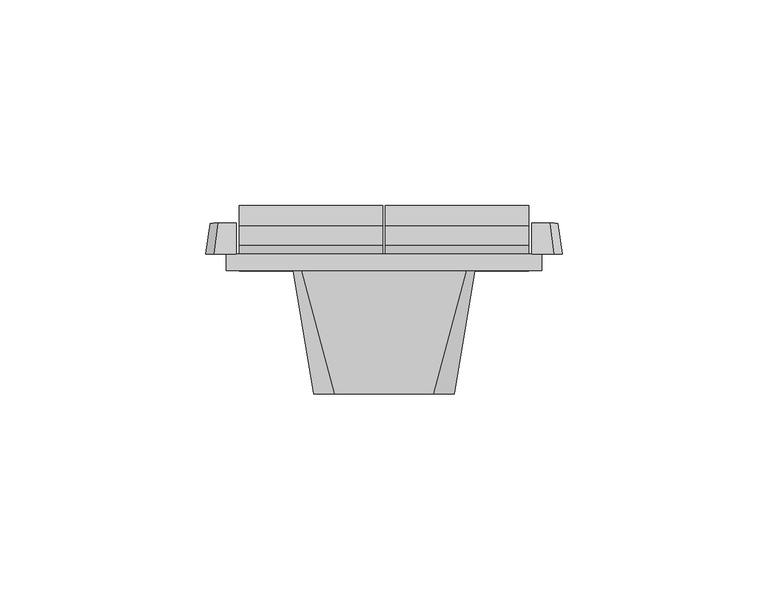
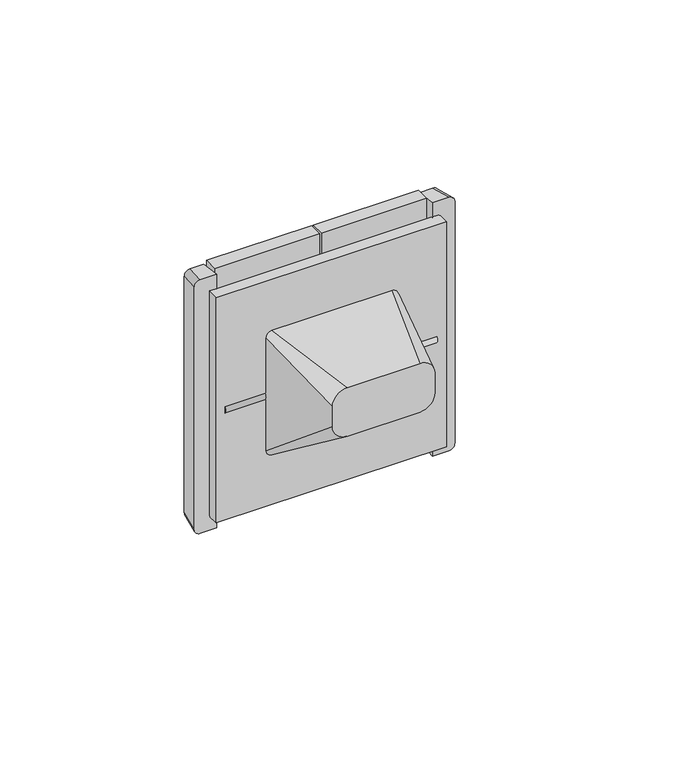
"""IFC4 building model written with IfcOpenShell, lengths in millimetres: proxy geometry, IEK_Forte&Piano_Выключатель : В2_FP105."""

import ifcopenshell
import ifcopenshell.guid

model = None  # the IFC model being written
_history = None  # IfcOwnerHistory: only IFC2X3 demands one
_inside = {}  # id of a spatial element -> (the spatial element, [elements in it])
_under = {}  # id of a project, library or spatial element -> (it, [spatial elements below it])
_declared = {}  # id of a project -> (the project, [libraries it declares])
_typed = {}  # id of a type object -> (the type object, [elements of that type])
_made_of = {}  # id of a material, layer set ... -> (it, [elements and type objects made of it])


def new_model(schema):
    """Start an empty IFC model of exactly this schema.

    Asked for "IFC4X3", IfcOpenShell would pick the latest addendum, in which some entities
    have other attributes; the version numbers below select the first issue.
    IFC2X3 requires an IfcOwnerHistory on every rooted entity: one is made here for all.
    """
    global model, _history
    if schema == "IFC4X3":
        model = ifcopenshell.file(schema_version=(4, 3, 0, 0))
    else:
        model = ifcopenshell.file(schema=schema)
    _inside.clear()
    _under.clear()
    _declared.clear()
    _typed.clear()
    _made_of.clear()
    _history = None
    if model.schema == "IFC2X3":
        org = make("IfcOrganization", Name="unknown")
        user = make(
            "IfcPersonAndOrganization",
            ThePerson=make("IfcPerson", FamilyName="unknown"),
            TheOrganization=org,
        )
        app = make(
            "IfcApplication",
            ApplicationDeveloper=org,
            Version="unknown",
            ApplicationFullName="unknown",
            ApplicationIdentifier="unknown",
        )
        _history = make(
            "IfcOwnerHistory",
            OwningUser=user,
            OwningApplication=app,
            ChangeAction="ADDED",
            CreationDate=0,
        )
    return model


def make(cls, **values):
    """One entity of the class cls with the attributes given. An attribute that is None is left unset."""
    return model.create_entity(
        cls, **{name: value for name, value in values.items() if value is not None}
    )


def rooted(cls, **values):
    """An entity with a GlobalId (a new one), such as an element, a storey or a relation."""
    return make(cls, GlobalId=ifcopenshell.guid.new(), OwnerHistory=_history, **values)


def si_unit(unit_type, name, prefix=None):
    """IfcSIUnit, for example si_unit("LENGTHUNIT", "METRE", prefix="MILLI")."""
    return make("IfcSIUnit", UnitType=unit_type, Prefix=prefix, Name=name)


def assignment(units):
    """IfcUnitAssignment: the units of a project."""
    return None if units is None else make("IfcUnitAssignment", Units=units)


def point(xyz):
    """IfcCartesianPoint."""
    return None if xyz is None else make("IfcCartesianPoint", Coordinates=xyz)


def direction(xyz):
    """IfcDirection."""
    return None if xyz is None else make("IfcDirection", DirectionRatios=xyz)


def frame(location, z_axis=None, x_axis=None):
    """IfcAxis2Placement3D, a coordinate frame: its origin and axes. An axis left out is left unset."""
    return make(
        "IfcAxis2Placement3D",
        Location=point(location),
        Axis=direction(z_axis),
        RefDirection=direction(x_axis),
    )


def origin():
    """The frame at (0, 0, 0) with its axes left unset."""
    return frame((0.0, 0.0, 0.0))


def place(relative_to, where):
    """IfcLocalPlacement: puts the frame where relative to a parent placement (None: the world)."""
    return make(
        "IfcLocalPlacement", PlacementRelTo=relative_to, RelativePlacement=where
    )


def context(
    kind, dimensions, precision=None, world=None, true_north=None, identifier=None
):
    """IfcGeometricRepresentationContext, for example the 3D "Model" context."""
    return make(
        "IfcGeometricRepresentationContext",
        ContextIdentifier=identifier,
        ContextType=kind,
        CoordinateSpaceDimension=dimensions,
        Precision=precision,
        WorldCoordinateSystem=world,
        TrueNorth=true_north,
    )


def project(units=None, contexts=None):
    """IfcProject with its units and contexts."""
    return rooted(
        "IfcProject",
        Name="project",
        RepresentationContexts=contexts,
        UnitsInContext=assignment(units),
    )


def spatial(cls, under=None, at=None, **own):
    """A site, building, storey or space (cls), placed at a placement, below another one or the project."""
    s = rooted(cls, ObjectPlacement=at, **own)
    if under is not None:
        _under.setdefault(under.id(), (under, []))[1].append(s)
    return s


def polyline(points):
    """IfcPolyline through the points."""
    return make("IfcPolyline", Points=[point(p) for p in points])


def circle_curve(where, radius):
    """IfcCircle in the frame where."""
    return make("IfcCircle", Position=where, Radius=radius)


def ellipse_curve(where, semi_axis1, semi_axis2):
    """IfcEllipse in the frame where."""
    return make(
        "IfcEllipse", Position=where, SemiAxis1=semi_axis1, SemiAxis2=semi_axis2
    )


def trimmed(basis, trim1, trim2, sense, master):
    """IfcTrimmedCurve: the piece of a basis curve between two trims."""
    return make(
        "IfcTrimmedCurve",
        BasisCurve=basis,
        Trim1=trim1,
        Trim2=trim2,
        SenseAgreement=sense,
        MasterRepresentation=master,
    )


def shape(context_of_items, identifier, shape_type, items):
    """IfcShapeRepresentation: the items that make up one representation, for example the "Body"."""
    return make(
        "IfcShapeRepresentation",
        ContextOfItems=context_of_items,
        RepresentationIdentifier=identifier,
        RepresentationType=shape_type,
        Items=items,
    )


def source(mapping_origin, context_of_items, identifier, shape_type, items):
    """IfcRepresentationMap: a shape defined once, which mapped items show again and again."""
    return make(
        "IfcRepresentationMap",
        MappingOrigin=mapping_origin,
        MappedRepresentation=shape(context_of_items, identifier, shape_type, items),
    )


def transform(
    local_origin,
    x_axis=None,
    y_axis=None,
    z_axis=None,
    scale=None,
    scale2=None,
    scale3=None,
    uniform=True,
):
    """IfcCartesianTransformationOperator3D, or its non-uniform kind. x_axis, y_axis, z_axis: its Axis1, 2, 3."""
    if uniform:
        return make(
            "IfcCartesianTransformationOperator3D",
            Axis1=direction(x_axis),
            Axis2=direction(y_axis),
            LocalOrigin=point(local_origin),
            Scale=scale,
            Axis3=direction(z_axis),
        )
    return make(
        "IfcCartesianTransformationOperator3DnonUniform",
        Axis1=direction(x_axis),
        Axis2=direction(y_axis),
        LocalOrigin=point(local_origin),
        Scale=scale,
        Axis3=direction(z_axis),
        Scale2=scale2,
        Scale3=scale3,
    )


def mapped(mapping_source, mapping_target):
    """IfcMappedItem: shows the shape of a source again, moved by a transform."""
    return make(
        "IfcMappedItem", MappingSource=mapping_source, MappingTarget=mapping_target
    )


def made_of(thing, what):
    """Note that an element or type object is made of a material, layer set ...; save() writes the relation."""
    if what is not None:
        _made_of.setdefault(what.id(), (what, []))[1].append(thing)
    return thing


def element(
    cls,
    number,
    at=None,
    inside=None,
    cuts=None,
    type_object=None,
    material=None,
    context=None,
    identifier="Body",
    shape_type=None,
    held_by="IfcProductDefinitionShape",
    body=None,
    shapes=None,
    **own,
):
    """One element of the class cls, such as IfcWall. Its Tag is "e" and its number.

    at: its placement. inside: the storey or other place that contains it. cuts: it is an
    opening in that element (IfcRelVoidsElement). A single representation is given by context,
    identifier, shape_type and body (its items); several are given by shapes. held_by: the class
    of the entity that holds the representations. save() writes the other relations.
    """
    e = rooted(cls, Tag="e%d" % number, ObjectPlacement=at, **own)
    if body is not None:
        shapes = [shape(context, identifier, shape_type, body)]
    if shapes is not None:
        e.Representation = make(held_by, Representations=shapes)
    if inside is not None:
        _inside.setdefault(inside.id(), (inside, []))[1].append(e)
    if cuts is not None:
        rooted(
            "IfcRelVoidsElement", RelatingBuildingElement=cuts, RelatedOpeningElement=e
        )
    if type_object is not None:
        _typed.setdefault(type_object.id(), (type_object, []))[1].append(e)
    return made_of(e, material)


def aggregate(whole, parts):
    """IfcRelAggregates: a whole, such as a stair, and the parts it consists of."""
    return rooted("IfcRelAggregates", RelatingObject=whole, RelatedObjects=parts)


def save(model, path):
    """Write the relations noted so far, then the file.

    IfcRelAggregates (storeys below a building ...), IfcRelContainedInSpatialStructure (elements
    in a storey), IfcRelDefinesByType, IfcRelAssociatesMaterial and IfcRelDeclares: one each for
    every whole, place, type object, material and project.
    """
    for whole, parts in _under.values():
        aggregate(whole, parts)
    for where, things in _inside.values():
        rooted(
            "IfcRelContainedInSpatialStructure",
            RelatedElements=things,
            RelatingStructure=where,
        )
    for kind, things in _typed.values():
        rooted("IfcRelDefinesByType", RelatedObjects=things, RelatingType=kind)
    for what, things in _made_of.values():
        rooted("IfcRelAssociatesMaterial", RelatedObjects=things, RelatingMaterial=what)
    for by, libraries in _declared.values():
        rooted("IfcRelDeclares", RelatingContext=by, RelatedDefinitions=libraries)
    model.write(path)


def plane_surface(at):
    """IfcPlane: the flat surface through the origin of the frame at, square to its z axis."""
    return make("IfcPlane", Position=at)


def cylinder_surface(at, radius):
    """IfcCylindricalSurface: all points at the distance radius from the z axis of the frame at."""
    return make("IfcCylindricalSurface", Position=at, Radius=radius)


def revolved_surface(curve, axis_point, axis_direction):
    """IfcSurfaceOfRevolution: the curve turned about the line through axis_point along axis_direction."""
    return make(
        "IfcSurfaceOfRevolution",
        SweptCurve=make("IfcArbitraryOpenProfileDef", ProfileType="CURVE", Curve=curve),
        AxisPosition=make("IfcAxis1Placement", Location=point(axis_point), Axis=direction(axis_direction)),
    )


def extruded_surface(curve, direction_of_extrusion, depth):
    """IfcSurfaceOfLinearExtrusion: the curve pushed along a direction by depth."""
    return make(
        "IfcSurfaceOfLinearExtrusion",
        SweptCurve=make("IfcArbitraryOpenProfileDef", ProfileType="CURVE", Curve=curve),
        ExtrudedDirection=direction(direction_of_extrusion),
        Depth=depth,
    )


def spline_surface(u_degree, v_degree, points, u_multiplicities, v_multiplicities, u_knots, v_knots, weights=None):
    """IfcBSplineSurfaceWithKnots; with weights, IfcRationalBSplineSurfaceWithKnots. points: one row for each step in u."""
    own = dict(
        UDegree=u_degree,
        VDegree=v_degree,
        ControlPointsList=[[point(p) for p in row] for row in points],
        SurfaceForm="UNSPECIFIED",
        UClosed=False,
        VClosed=False,
        SelfIntersect=False,
        UMultiplicities=u_multiplicities,
        VMultiplicities=v_multiplicities,
        UKnots=u_knots,
        VKnots=v_knots,
        KnotSpec="UNSPECIFIED",
    )
    if weights is None:
        return make("IfcBSplineSurfaceWithKnots", **own)
    return make("IfcRationalBSplineSurfaceWithKnots", WeightsData=weights, **own)


def advanced_brep(points, edges, surfaces, faces):
    """IfcAdvancedBrep: a solid bounded by faces that lie on surfaces and meet in shared edges.

    An edge is (start, end): straight between two places in points (the first is 0);
    or (start, end, curve); or (start, end, curve, False) where it runs against its curve.
    A face is (place in surfaces, loops), or (place, loops, False) where it looks against
    its surface's normal. A loop lists edges by number (the first is 1), with a minus sign
    where the edge is run from its end to its start. The first loop is the outer one.
    """
    corners = [point(p) for p in points]
    vertices = [make("IfcVertexPoint", VertexGeometry=c) for c in corners]
    made = []
    for start, end, *more in edges:
        made.append(
            make(
                "IfcEdgeCurve",
                EdgeStart=vertices[start],
                EdgeEnd=vertices[end],
                EdgeGeometry=more[0] if more else make("IfcPolyline", Points=[corners[start], corners[end]]),
                SameSense=more[1] if len(more) > 1 else True,
            )
        )
    hull = []
    for where, loops, *sense in faces:
        bounds = []
        for j, loop in enumerate(loops):
            ring = [make("IfcOrientedEdge", EdgeElement=made[abs(k) - 1], Orientation=k > 0) for k in loop]
            bounds.append(
                make(
                    "IfcFaceOuterBound" if j == 0 else "IfcFaceBound",
                    Bound=make("IfcEdgeLoop", EdgeList=ring),
                    Orientation=True,
                )
            )
        hull.append(make("IfcAdvancedFace", Bounds=bounds, FaceSurface=surfaces[where], SameSense=sense[0] if sense else True))
    return make("IfcAdvancedBrep", Outer=make("IfcClosedShell", CfsFaces=hull))


def electrical_fixtures_668d4cdb(model_context):
    return source(origin(), model_context, "Body", "AdvancedBrep", [
        advanced_brep(
        [(-35.2, 6.2549179, 2.9812023), (-35.2, 6.2549179, 44.8795088), (-35.2, 10.987727, 44.8795088), (-35.2, 15.7741028, -43.2498951), (-35.2, 10.7814607, -43.5210494), (-35.2, 6.5964168, -3.3066655), (-35.2, 1.5972872, -2.8692983), (-35.2, 0.9979294, 0.5298284), (-0.3, 6.2549179, 2.9812023), (-0.3, 0.9979294, 0.5298284), (-0.3, 1.5972872, -2.8692983), (-0.3, 6.5964168, -3.3066655), (-0.3, 7.4154801, -11.1771032), (-0.3, 11.5120925, -11.1771032), (-0.3, 11.5120925, -15.1771032), (-0.3, 7.8317535, -15.1771032), (-0.3, 10.7814607, -43.5210494), (-0.3, 15.7741028, -43.2498951), (-0.3, 10.987727, 44.8795088), (-0.3, 6.2549179, 44.8795088), (-6.0000251, 7.8317535, -15.1771032), (-6.0000251, 7.4154801, -11.1771032), (-6.0000251, 11.5120925, -11.1771032), (-6.0000251, 11.5120925, -15.1771032)],
        [
            (0, 1),
            (1, 2),
            (2, 3),
            (3, 4),
            (4, 5),
            (5, 6),
            (6, 7, circle_curve(frame((-35.2, 1.7530049, -1.0894363), z_axis=(-1.0, 0.0, 0.0), x_axis=(0.0, 1.0, 0.0)), 1.7866608)),
            (7, 0),
            (8, 9),
            (9, 10, circle_curve(frame((-0.3, 1.7530049, -1.0894363), z_axis=(1.0, 0.0, 0.0), x_axis=(0.0, 1.0, 0.0)), 1.7866608)),
            (10, 11),
            (11, 12),
            (12, 13),
            (13, 14),
            (14, 15),
            (15, 16),
            (16, 17),
            (17, 18),
            (18, 19),
            (19, 8),
            (0, 8),
            (19, 1),
            (7, 9),
            (6, 10),
            (5, 11),
            (4, 16),
            (15, 20),
            (20, 21, ellipse_curve(frame((-6.0000251, 7.6236168, -13.1771032), z_axis=(0.0, 0.9946284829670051, 0.10350932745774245), x_axis=(0.0, -0.10350932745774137, 0.9946284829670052)), 2.0108011, 2.0)),
            (21, 12),
            (3, 17),
            (2, 18),
            (22, 23, circle_curve(frame((-6.0000251, 11.5120925, -13.1771032), z_axis=(0.0, -1.0, 0.0), x_axis=(1.0, 0.0, 0.0)), 2.0)),
            (23, 14),
            (13, 22),
            (21, 22),
            (20, 23),
        ],
        [
            plane_surface(frame((-35.2, 6.2549179, 21.8770556), z_axis=(-1.0, 0.0, 0.0), x_axis=(0.0, 0.0, 1.0))),
            plane_surface(frame((-0.3, 6.2549179, 21.8770556), z_axis=(1.0, 0.0, 0.0), x_axis=(0.0, 0.0, -1.0))),
            plane_surface(frame((-35.2, 6.2549179, 2.9812023), z_axis=(0.0, -1.0, 0.0), x_axis=(1.0, 0.0, 0.0))),
            plane_surface(frame((-35.2, 0.9979294, 0.5298284), z_axis=(0.0, -0.4226182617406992, 0.90630778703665), x_axis=(1.0, 0.0, 0.0))),
            cylinder_surface(frame((-0.3, 1.7530049, -1.0894363), z_axis=(-1.0, 0.0, 0.0), x_axis=(0.0, 1.0, 0.0)), 1.7866608),
            plane_surface(frame((-35.2, 6.5964168, -3.3066655), z_axis=(0.0, -0.08715574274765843, -0.9961946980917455), x_axis=(1.0, 0.0, 0.0))),
            plane_surface(frame((-35.2, 10.7814607, -43.5210494), z_axis=(0.0, -0.9946284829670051, -0.10350932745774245), x_axis=(1.0, 0.0, 0.0))),
            plane_surface(frame((-35.2, 15.7741028, -43.2498951), z_axis=(0.0, 0.05423084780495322, -0.9985284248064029), x_axis=(1.0, 0.0, 0.0))),
            plane_surface(frame((-35.2, 10.987727, 44.8795088), z_axis=(0.0, 0.9985284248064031, 0.05423084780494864), x_axis=(1.0, 0.0, 0.0))),
            plane_surface(frame((-35.2, 6.2549179, 44.8795088), z_axis=(0.0, 0.0, 1.0), x_axis=(1.0, 0.0, 0.0))),
            plane_surface(frame((-6.0000251, 11.5120925, -11.1771032), z_axis=(0.0, -1.0, 0.0), x_axis=(1.0, 0.0, 0.0))),
            plane_surface(frame((6.0000251, 3.5120925, -11.1771032), z_axis=(0.0, 0.0, -1.0), x_axis=(0.0, 1.0, 0.0))),
            revolved_surface(polyline([(-4.0000251, 7.4154801, -13.1771032), (-4.0000251, 11.5120925, -13.1771032)]), (-6.0000251, 11.5120925, -13.1771032), (0.0, -1.0, 0.0)),
            plane_surface(frame((-6.0000251, 3.5120925, -15.1771032), z_axis=(0.0, 0.0, 1.0), x_axis=(0.0, 1.0, 0.0))),
        ],
        [
            (0, [[1, 2, 3, 4, 5, 6, 7, 8]]),
            (1, [[9, 10, 11, 12, 13, 14, 15, 16, 17, 18, 19, 20]]),
            (2, [[-1, 21, -20, 22]]),
            (3, [[-8, 23, -9, -21]]),
            (4, [[-7, 24, -10, -23]]),
            (5, [[-6, 25, -11, -24]]),
            (6, [[-5, 26, -16, 27, 28, 29, -12, -25]]),
            (7, [[-4, 30, -17, -26]]),
            (8, [[-3, 31, -18, -30]]),
            (9, [[-2, -22, -19, -31]]),
            (10, [[32, 33, -14, 34]]),
            (11, [[-34, -13, -29, 35]]),
            (12, [[-32, -35, -28, 36]]),
            (13, [[-33, -36, -27, -15]]),
        ],
    ),
        advanced_brep(
        [(35.2, 6.2549179, 2.9812023), (35.2, 0.9979294, 0.5298284), (35.2, 1.5972872, -2.8692983), (35.2, 6.5964168, -3.3066655), (35.2, 10.7814607, -43.5210494), (35.2, 15.7741028, -43.2498951), (35.2, 10.987727, 44.8795088), (35.2, 6.2549179, 44.8795088), (0.3, 6.2549179, 2.9812023), (0.3, 6.2549179, 44.8795088), (0.3, 10.987727, 44.8795088), (0.3, 15.7741028, -43.2498951), (0.3, 10.7814607, -43.5210494), (0.3, 7.8317535, -15.1771032), (0.3, 11.5120925, -15.1771032), (0.3, 11.5120925, -11.1771032), (0.3, 7.4154801, -11.1771032), (0.3, 6.5964168, -3.3066655), (0.3, 1.5972872, -2.8692983), (0.3, 0.9979294, 0.5298284), (6.0000251, 7.4154801, -11.1771032), (6.0000251, 7.8317535, -15.1771032), (6.0000251, 11.5120925, -15.1771032), (6.0000251, 11.5120925, -11.1771032)],
        [
            (0, 1),
            (1, 2, circle_curve(frame((35.2, 1.7530049, -1.0894363), z_axis=(1.0, 0.0, 0.0), x_axis=(0.0, 1.0, 0.0)), 1.7866608)),
            (2, 3),
            (3, 4),
            (4, 5),
            (5, 6),
            (6, 7),
            (7, 0),
            (8, 9),
            (9, 10),
            (10, 11),
            (11, 12),
            (12, 13),
            (13, 14),
            (14, 15),
            (15, 16),
            (16, 17),
            (17, 18),
            (18, 19, circle_curve(frame((0.3, 1.7530049, -1.0894363), z_axis=(-1.0, 0.0, 0.0), x_axis=(0.0, 1.0, 0.0)), 1.7866608)),
            (19, 8),
            (7, 9),
            (8, 0),
            (19, 1),
            (18, 2),
            (17, 3),
            (16, 20),
            (20, 21, ellipse_curve(frame((6.0000251, 7.6236168, -13.1771032), z_axis=(0.0, 0.9946284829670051, 0.10350932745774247), x_axis=(0.0, -0.10350932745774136, 0.9946284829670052)), 2.0108011, 2.0)),
            (21, 13),
            (12, 4),
            (11, 5),
            (10, 6),
            (22, 23, circle_curve(frame((6.0000251, 11.5120925, -13.1771032), z_axis=(0.0, -1.0, 0.0), x_axis=(1.0, 0.0, 0.0)), 2.0)),
            (23, 15),
            (14, 22),
            (23, 20),
            (21, 22),
        ],
        [
            plane_surface(frame((35.2, -0.6655077, -0.2458451), z_axis=(1.0, 0.0, 0.0), x_axis=(0.0, -0.9063077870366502, -0.42261826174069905))),
            plane_surface(frame((0.3, -0.6655077, -0.2458451), z_axis=(-1.0, 0.0, 0.0), x_axis=(0.0, 0.9063077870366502, 0.42261826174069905))),
            plane_surface(frame((35.2, 6.2549179, 44.8795088), z_axis=(0.0, -1.0, 0.0), x_axis=(-1.0, 0.0, 0.0))),
            plane_surface(frame((35.2, 6.2549179, 2.9812023), z_axis=(0.0, -0.42261826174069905, 0.9063077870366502), x_axis=(-1.0, 0.0, 0.0))),
            cylinder_surface(frame((0.3, 1.7530049, -1.0894363), z_axis=(1.0, 0.0, 0.0), x_axis=(0.0, 1.0, 0.0)), 1.7866608),
            plane_surface(frame((35.2, 1.5972872, -2.8692983), z_axis=(0.0, -0.08715574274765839, -0.9961946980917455), x_axis=(-1.0, 0.0, 0.0))),
            plane_surface(frame((35.2, 6.5964168, -3.3066655), z_axis=(0.0, -0.9946284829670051, -0.10350932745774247), x_axis=(-1.0, 0.0, 0.0))),
            plane_surface(frame((35.2, 10.7814607, -43.5210494), z_axis=(0.0, 0.05423084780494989, -0.998528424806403), x_axis=(-1.0, 0.0, 0.0))),
            plane_surface(frame((35.2, 15.7741028, -43.2498951), z_axis=(0.0, 0.9985284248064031, 0.05423084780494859), x_axis=(-1.0, 0.0, 0.0))),
            plane_surface(frame((35.2, 10.987727, 44.8795088), z_axis=(0.0, 0.0, 1.0), x_axis=(-1.0, 0.0, 0.0))),
            plane_surface(frame((-6.0000251, 11.5120925, -11.1771032), z_axis=(0.0, -1.0, 0.0), x_axis=(1.0, 0.0, 0.0))),
            plane_surface(frame((6.0000251, 3.5120925, -11.1771032), z_axis=(0.0, 0.0, -1.0), x_axis=(0.0, 1.0, 0.0))),
            plane_surface(frame((-6.0000251, 3.5120925, -15.1771032), z_axis=(0.0, 0.0, 1.0), x_axis=(0.0, 1.0, 0.0))),
            revolved_surface(polyline([(8.0000251, 7.4154801, -13.1771032), (8.0000251, 11.5120925, -13.1771032)]), (6.0000251, 11.5120925, -13.1771032), (0.0, -1.0, 0.0)),
        ],
        [
            (0, [[1, 2, 3, 4, 5, 6, 7, 8]]),
            (1, [[9, 10, 11, 12, 13, 14, 15, 16, 17, 18, 19, 20]]),
            (2, [[-8, 21, -9, 22]]),
            (3, [[-1, -22, -20, 23]]),
            (4, [[-2, -23, -19, 24]]),
            (5, [[-3, -24, -18, 25]]),
            (6, [[-4, -25, -17, 26, 27, 28, -13, 29]]),
            (7, [[-5, -29, -12, 30]]),
            (8, [[-6, -30, -11, 31]]),
            (9, [[-7, -31, -10, -21]]),
            (10, [[32, 33, -15, 34]]),
            (11, [[-33, 35, -26, -16]]),
            (12, [[-34, -14, -28, 36]]),
            (13, [[-32, -36, -27, -35]]),
        ],
    ),
        advanced_brep(
        [(35.8576533, 11.5, 43.5), (35.8576533, 11.5, -43.5), (35.8576533, 4.0, -44.5), (35.8576533, 4.0, -39.5), (35.8576533, 4.0, 39.5), (35.8576533, 4.0, 44.5), (-35.8576533, 11.5, -43.5), (-35.8576533, 11.5, 43.5), (-35.8576533, 4.0, 44.5), (-35.8576533, 4.0, 39.5), (-35.8576533, 4.0, -39.5), (-35.8576533, 4.0, -44.5), (40.25, 11.5, 43.5), (42.25, 11.5, 41.5), (42.25, 11.5, -41.5), (40.25, 11.5, -43.5), (-40.25, 11.5, -43.5), (-42.25, 11.5, -41.5), (-42.25, 11.5, 41.5), (-40.25, 11.5, 43.5), (-41.25, 4.0, 44.5), (-43.25, 4.0, 42.5), (-43.25, 4.0, -42.5), (-41.25, 4.0, -44.5), (-38.25, 4.0, -39.5), (-38.25, 4.0, 39.5), (41.25, 4.0, -44.5), (43.25, 4.0, -42.5), (43.25, 4.0, 42.5), (41.25, 4.0, 44.5), (38.25, 4.0, 39.5), (38.25, 4.0, -39.5), (-38.25, 0.0, 39.5), (-38.25, 0.0, -39.5), (38.25, 0.0, -39.5), (38.25, 0.0, 39.5)],
        [
            (0, 1),
            (1, 2),
            (2, 3),
            (3, 4),
            (4, 5),
            (5, 0),
            (6, 7),
            (7, 8),
            (8, 9),
            (9, 10),
            (10, 11),
            (11, 6),
            (12, 13, circle_curve(frame((40.25, 11.5, 41.5), z_axis=(0.0, 1.0, 0.0), x_axis=(-1.0, 0.0, 0.0)), 2.0)),
            (13, 14),
            (14, 15, circle_curve(frame((40.25, 11.5, -41.5), z_axis=(0.0, 1.0, 0.0), x_axis=(-1.0, 0.0, 0.0)), 2.0)),
            (15, 1),
            (0, 12),
            (16, 17, circle_curve(frame((-40.25, 11.5, -41.5), z_axis=(0.0, 1.0, 0.0), x_axis=(-1.0, 0.0, 0.0)), 2.0)),
            (17, 18),
            (18, 19, circle_curve(frame((-40.25, 11.5, 41.5), z_axis=(0.0, 1.0, 0.0), x_axis=(-1.0, 0.0, 0.0)), 2.0)),
            (19, 7),
            (6, 16),
            (20, 21, circle_curve(frame((-41.25, 4.0, 42.5), z_axis=(0.0, -1.0, 0.0), x_axis=(-1.0, 0.0, 0.0)), 2.0)),
            (21, 22),
            (22, 23, circle_curve(frame((-41.25, 4.0, -42.5), z_axis=(0.0, -1.0, 0.0), x_axis=(-1.0, 0.0, 0.0)), 2.0)),
            (23, 11),
            (10, 24),
            (24, 25),
            (25, 9),
            (8, 20),
            (26, 27, circle_curve(frame((41.25, 4.0, -42.5), z_axis=(0.0, -1.0, 0.0), x_axis=(-1.0, 0.0, 0.0)), 2.0)),
            (27, 28),
            (28, 29, circle_curve(frame((41.25, 4.0, 42.5), z_axis=(0.0, -1.0, 0.0), x_axis=(-1.0, 0.0, 0.0)), 2.0)),
            (29, 5),
            (4, 30),
            (30, 31),
            (31, 3),
            (2, 26),
            (29, 12),
            (19, 20),
            (28, 13),
            (27, 14),
            (26, 15),
            (23, 16),
            (22, 17),
            (21, 18),
            (3, 10),
            (9, 4),
            (32, 33),
            (33, 34),
            (34, 35),
            (35, 32),
            (32, 25),
            (24, 33),
            (31, 34),
            (30, 35),
        ],
        [
            plane_surface(frame((35.8576533, 11.5, 44.5), z_axis=(-1.0, 0.0, 0.0), x_axis=(0.0, -1.0, 0.0))),
            plane_surface(frame((-35.8576533, 11.5, -44.5), z_axis=(1.0, 0.0, 0.0), x_axis=(0.0, -1.0, 0.0))),
            plane_surface(frame((0.0, 11.5, 0.0), z_axis=(0.0, 1.0, 0.0), x_axis=(1.0, 0.0, 0.0))),
            plane_surface(frame((0.0, 4.0, 0.0), z_axis=(0.0, -1.0, 0.0), x_axis=(1.0, 0.0, 0.0))),
            plane_surface(frame((0.0, 4.0, 44.5), z_axis=(0.0, 0.13216372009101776, 0.9912279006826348), x_axis=(1.0, 0.0, 0.0))),
            extruded_surface(trimmed(circle_curve(frame((41.25, 4.0, 42.5), z_axis=(0.0, 1.0, 0.0), x_axis=(-1.0, 0.0, 0.0)), 2.0), [point((41.25, 4.0, 44.5))], [point((43.25, 4.0, 42.5))], True, "CARTESIAN"), (-1.0, 7.5, -1.0), 7.632168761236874),
            plane_surface(frame((43.25, 4.0, 0.0), z_axis=(0.9912279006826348, 0.13216372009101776, 0.0), x_axis=(0.0, 0.0, -1.0))),
            extruded_surface(trimmed(circle_curve(frame((41.25, 4.0, -42.5), z_axis=(0.0, 1.0, 0.0), x_axis=(-1.0, 0.0, 0.0)), 2.0), [point((43.25, 4.0, -42.5))], [point((41.25, 4.0, -44.5))], True, "CARTESIAN"), (-1.0, 7.5, 1.0), 7.632168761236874),
            plane_surface(frame((0.0, 4.0, -44.5), z_axis=(0.0, 0.13216372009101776, -0.9912279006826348), x_axis=(-1.0, 0.0, 0.0))),
            extruded_surface(trimmed(circle_curve(frame((-41.25, 4.0, -42.5), z_axis=(0.0, 1.0, 0.0), x_axis=(-1.0, 0.0, 0.0)), 2.0), [point((-41.25, 4.0, -44.5))], [point((-43.25, 4.0, -42.5))], True, "CARTESIAN"), (1.0, 7.5, 1.0), 7.632168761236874),
            plane_surface(frame((-43.25, 4.0, 0.0), z_axis=(-0.9912279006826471, 0.13216372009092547, 0.0), x_axis=(0.0, 0.0, 1.0))),
            extruded_surface(trimmed(circle_curve(frame((-41.25, 4.0, 42.5), z_axis=(0.0, 1.0, 0.0), x_axis=(-1.0, 0.0, 0.0)), 2.0), [point((-43.25, 4.0, 42.5))], [point((-41.25, 4.0, 44.5))], True, "CARTESIAN"), (1.0, 7.5, -1.0), 7.632168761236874),
            plane_surface(frame((-38.25, 4.0, 39.5), z_axis=(0.0, 1.0, 0.0), x_axis=(0.0, 0.0, 1.0))),
            plane_surface(frame((-38.25, 0.0, 39.5), z_axis=(0.0, -1.0, 0.0), x_axis=(0.0, 0.0, -1.0))),
            plane_surface(frame((-38.25, 0.0, 39.5), z_axis=(-1.0, 0.0, 0.0), x_axis=(0.0, 1.0, 0.0))),
            plane_surface(frame((-38.25, 0.0, -39.5), z_axis=(0.0, 0.0, -1.0), x_axis=(0.0, 1.0, 0.0))),
            plane_surface(frame((38.25, 0.0, -39.5), z_axis=(1.0, 0.0, 0.0), x_axis=(0.0, 1.0, 0.0))),
            plane_surface(frame((38.25, 0.0, 39.5), z_axis=(0.0, 0.0, 1.0), x_axis=(0.0, 1.0, 0.0))),
        ],
        [
            (0, [[1, 2, 3, 4, 5, 6]]),
            (1, [[7, 8, 9, 10, 11, 12]]),
            (2, [[13, 14, 15, 16, -1, 17]]),
            (2, [[18, 19, 20, 21, -7, 22]]),
            (3, [[23, 24, 25, 26, -11, 27, 28, 29, -9, 30]]),
            (3, [[31, 32, 33, 34, -5, 35, 36, 37, -3, 38]]),
            (4, [[39, -17, -6, -34]]),
            (4, [[40, -30, -8, -21]]),
            (5, [[-13, -39, -33, 41]]),
            (6, [[-14, -41, -32, 42]]),
            (7, [[-15, -42, -31, 43]]),
            (8, [[-43, -38, -2, -16]]),
            (8, [[44, -22, -12, -26]]),
            (9, [[-18, -44, -25, 45]]),
            (10, [[-19, -45, -24, 46]]),
            (11, [[-20, -46, -23, -40]]),
            (12, [[47, -10, 48, -4]]),
            (13, [[49, 50, 51, 52]]),
            (14, [[-49, 53, -28, 54]]),
            (15, [[-50, -54, -27, -47, -37, 55]]),
            (16, [[-51, -55, -36, 56]]),
            (17, [[-52, -56, -35, -48, -29, -53]]),
        ],
    ),
        advanced_brep(
        [(-12.0, -30.0, 17.0), (-17.0, -30.0, 12.0), (-17.0, -30.0, 5.0), (-12.0, -30.0, 0.0), (12.0, -30.0, 0.0), (17.0, -30.0, 5.0), (17.0, -30.0, 12.0), (12.0, -30.0, 17.0), (-20.0, 0.0, 22.0), (20.0, 0.0, 22.0), (22.0, 0.0, 20.0), (22.0, 0.0, -20.0), (20.0, 0.0, -22.0), (-20.0, 0.0, -22.0), (-22.0, 0.0, -20.0), (-22.0, 0.0, 20.0)],
        [
            (0, 1, circle_curve(frame((-12.0, -30.0, 12.0), z_axis=(0.0, -1.0, 0.0), x_axis=(1.0, 0.0, 0.0)), 5.0)),
            (1, 2),
            (2, 3, circle_curve(frame((-12.0, -30.0, 5.0), z_axis=(0.0, -1.0, 0.0), x_axis=(1.0, 0.0, 0.0)), 5.0)),
            (3, 4),
            (4, 5, circle_curve(frame((12.0, -30.0, 5.0), z_axis=(0.0, -1.0, 0.0), x_axis=(1.0, 0.0, 0.0)), 5.0)),
            (5, 6),
            (6, 7, circle_curve(frame((12.0, -30.0, 12.0), z_axis=(0.0, -1.0, 0.0), x_axis=(1.0, 0.0, 0.0)), 5.0)),
            (7, 0),
            (8, 9),
            (9, 10, circle_curve(frame((20.0, 0.0, 20.0), z_axis=(0.0, 1.0, 0.0), x_axis=(1.0, 0.0, 0.0)), 2.0)),
            (10, 11),
            (11, 12, circle_curve(frame((20.0, 0.0, -20.0), z_axis=(0.0, 1.0, 0.0), x_axis=(1.0, 0.0, 0.0)), 2.0)),
            (12, 13),
            (13, 14, circle_curve(frame((-20.0, 0.0, -20.0), z_axis=(0.0, 1.0, 0.0), x_axis=(1.0, 0.0, 0.0)), 2.0)),
            (14, 15),
            (15, 8, circle_curve(frame((-20.0, 0.0, 20.0), z_axis=(0.0, 1.0, 0.0), x_axis=(1.0, 0.0, 0.0)), 2.0)),
            (8, 0),
            (7, 9),
            (6, 10),
            (5, 11),
            (4, 12),
            (3, 13),
            (2, 14),
            (1, 15),
        ],
        [
            plane_surface(frame((0.0, -30.0, 8.5), z_axis=(0.0, -1.0, 0.0), x_axis=(-1.0, 0.0, 0.0))),
            plane_surface(frame((0.0, 0.0, 0.0), z_axis=(0.0, 1.0, 0.0), x_axis=(-1.0, 0.0, 0.0))),
            plane_surface(frame((0.0, 0.0, 22.0), z_axis=(0.0, -0.16439898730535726, 0.9863939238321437), x_axis=(-1.0, 0.0, 0.0))),
            spline_surface(2, 1, [[(22.0, 0.0, 20.0), (17.0, -30.0, 12.0)], [(22.0, 0.0, 22.0), (17.0, -30.0, 17.0)], [(20.0, 0.0, 22.0), (12.0, -30.0, 17.0)]], [3, 3], [2, 2], [0.0, 1.0], [0.0, 1.0], weights=[[1.0, 1.0], [0.7071067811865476, 0.7071067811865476], [1.0, 1.0]]),
            plane_surface(frame((22.0, 0.0, 0.0), z_axis=(0.9863939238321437, -0.1643989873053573, 0.0), x_axis=(0.0, 0.0, 1.0))),
            spline_surface(2, 1, [[(20.0, 0.0, -22.0), (12.0, -30.0, 0.0)], [(22.0, 0.0, -22.0), (17.0, -30.0, 0.0)], [(22.0, 0.0, -20.0), (17.0, -30.0, 5.0)]], [3, 3], [2, 2], [0.0, 1.0], [0.0, 1.0], weights=[[1.0, 1.0], [0.7071067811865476, 0.7071067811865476], [1.0, 1.0]]),
            plane_surface(frame((0.0, 0.0, -22.0), z_axis=(0.0, -0.591363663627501, -0.8064049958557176), x_axis=(1.0, 0.0, 0.0))),
            spline_surface(2, 1, [[(-22.0, 0.0, -20.0), (-17.0, -30.0, 5.0)], [(-22.0, 0.0, -22.0), (-17.0, -30.0, 0.0)], [(-20.0, 0.0, -22.0), (-12.0, -30.0, 0.0)]], [3, 3], [2, 2], [0.0, 1.0], [0.0, 1.0], weights=[[1.0, 1.0], [0.7071067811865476, 0.7071067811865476], [1.0, 1.0]]),
            plane_surface(frame((-22.0, 0.0, 0.0), z_axis=(-0.9863939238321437, -0.1643989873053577, 0.0), x_axis=(0.0, 0.0, -1.0))),
            spline_surface(2, 1, [[(-20.0, 0.0, 22.0), (-12.0, -30.0, 17.0)], [(-22.0, 0.0, 22.0), (-17.0, -30.0, 17.0)], [(-22.0, 0.0, 20.0), (-17.0, -30.0, 12.0)]], [3, 3], [2, 2], [0.0, 1.0], [0.0, 1.0], weights=[[1.0, 1.0], [0.7071067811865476, 0.7071067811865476], [1.0, 1.0]]),
        ],
        [
            (0, [[1, 2, 3, 4, 5, 6, 7, 8]]),
            (1, [[9, 10, 11, 12, 13, 14, 15, 16]]),
            (2, [[-9, 17, -8, 18]]),
            (3, [[-10, -18, -7, 19]]),
            (4, [[-11, -19, -6, 20]]),
            (5, [[-12, -20, -5, 21]]),
            (6, [[-13, -21, -4, 22]]),
            (7, [[-14, -22, -3, 23]]),
            (8, [[-15, -23, -2, 24]]),
            (9, [[-16, -24, -1, -17]]),
        ],
    ),
    ])


if __name__ == "__main__":
    model = new_model("IFC4")
    model_context = context("Model", 3, world=origin())
    ifc_project = project(units=[si_unit("LENGTHUNIT", "METRE", prefix="MILLI")], contexts=[model_context])
    site = spatial("IfcSite", under=ifc_project)
    building = spatial("IfcBuilding", under=site)
    placement = place(None, origin())
    electrical_fixtures_shape = electrical_fixtures_668d4cdb(model_context)
    element("IfcBuildingElementProxy", 1, Name="IEK_Forte&Piano_Выключатель : В2_FP105", ObjectType="IEK_Forte&Piano_Выключатель : В2_FP105", at=placement, inside=building, context=model_context, shape_type="MappedRepresentation", body=[
        mapped(electrical_fixtures_shape, transform((0.0, 0.0, 0.0), x_axis=(1.0, 0.0, 0.0), y_axis=(0.0, 1.0, 0.0), z_axis=(0.0, 0.0, 1.0))),
    ])
    save(model, "model.ifc")
